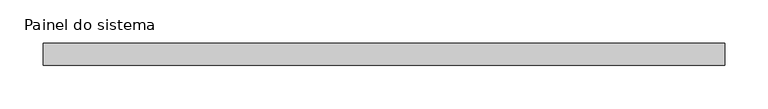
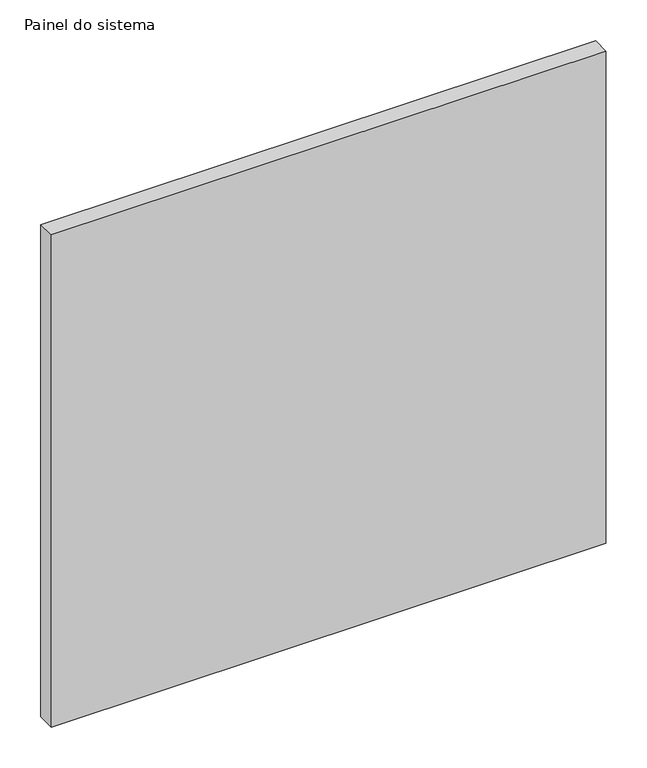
"""IFC4 building model written with IfcOpenShell, lengths in millimetres: plate geometry, Painel do sistema : Envidraçado."""

from ifc_helpers import new_model, si_unit, origin, origin_with_axes, place, context, project, spatial, polyline, outline, extrude, source, transform, mapped, element, save


def painel_do_sistema_32d4aa69(model_context):
    return source(origin(), model_context, "Body", "SweptSolid", [
        extrude(outline(polyline([(391.65, 24.5), (-391.65, 24.5), (-391.65, 49.5), (391.65, 49.5), (391.65, 24.5)])), origin_with_axes(), (0.0, 0.0, 1.0), 735.0),
    ])


if __name__ == "__main__":
    model = new_model("IFC4")
    model_context = context("Model", 3, world=origin())
    ifc_project = project(units=[si_unit("LENGTHUNIT", "METRE", prefix="MILLI")], contexts=[model_context])
    site = spatial("IfcSite", under=ifc_project)
    building = spatial("IfcBuilding", under=site)
    placement = place(None, origin())
    painel_do_sistema_shape = painel_do_sistema_32d4aa69(model_context)
    element("IfcPlate", 1, ObjectType="Painel do sistema : Envidraçado", at=placement, inside=building, context=model_context, shape_type="MappedRepresentation", body=[
        mapped(painel_do_sistema_shape, transform((0.0, 0.0, 0.0), x_axis=(1.0, 0.0, 0.0), y_axis=(0.0, 1.0, 0.0), z_axis=(0.0, 0.0, 1.0))),
    ])
    save(model, "model.ifc")
